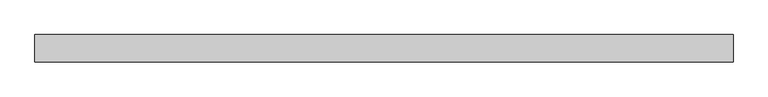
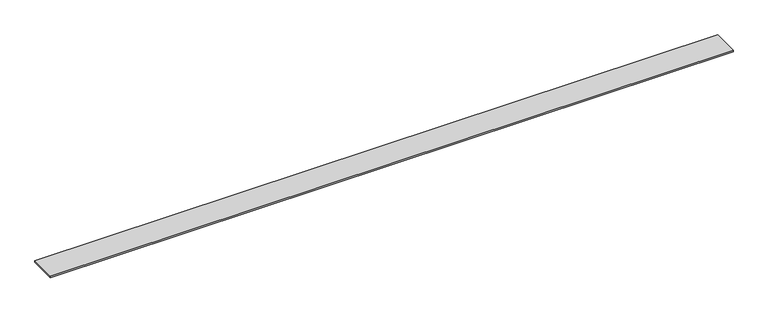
"""IFC4 building model written with IfcOpenShell, lengths in millimetres: furniture geometry, Geiger_GeigerOneCasegoods_WallTopTrimSingleSidedWall : 66Wx2.625Dx0.125H."""

from ifc_helpers import new_model, si_unit, origin, origin_with_axes, place, context, project, spatial, polyline, outline, extrude, source, transform, mapped, element, save


def furniture_78439a51(model_context):
    return source(origin(), model_context, "Body", "SweptSolid", [
        extrude(outline(polyline([(1676.4, -33.0), (0.0, -33.0), (0.0, 33.0), (1676.4, 33.0), (1676.4, -33.0)])), origin_with_axes(), (0.0, 0.0, 1.0), 3.2004),
    ])


if __name__ == "__main__":
    model = new_model("IFC4")
    model_context = context("Model", 3, world=origin())
    ifc_project = project(units=[si_unit("LENGTHUNIT", "METRE", prefix="MILLI")], contexts=[model_context])
    site = spatial("IfcSite", under=ifc_project)
    building = spatial("IfcBuilding", under=site)
    placement = place(None, origin())
    furniture_shape = furniture_78439a51(model_context)
    element("IfcFurniture", 1, ObjectType="Geiger_GeigerOneCasegoods_WallTopTrimSingleSidedWall : 66Wx2.625Dx0.125H", at=placement, inside=building, context=model_context, shape_type="MappedRepresentation", body=[
        mapped(furniture_shape, transform((0.0, 0.0, 0.0), x_axis=(1.0, 0.0, 0.0), y_axis=(0.0, 1.0, 0.0), z_axis=(0.0, 0.0, 1.0))),
    ])
    save(model, "model.ifc")
